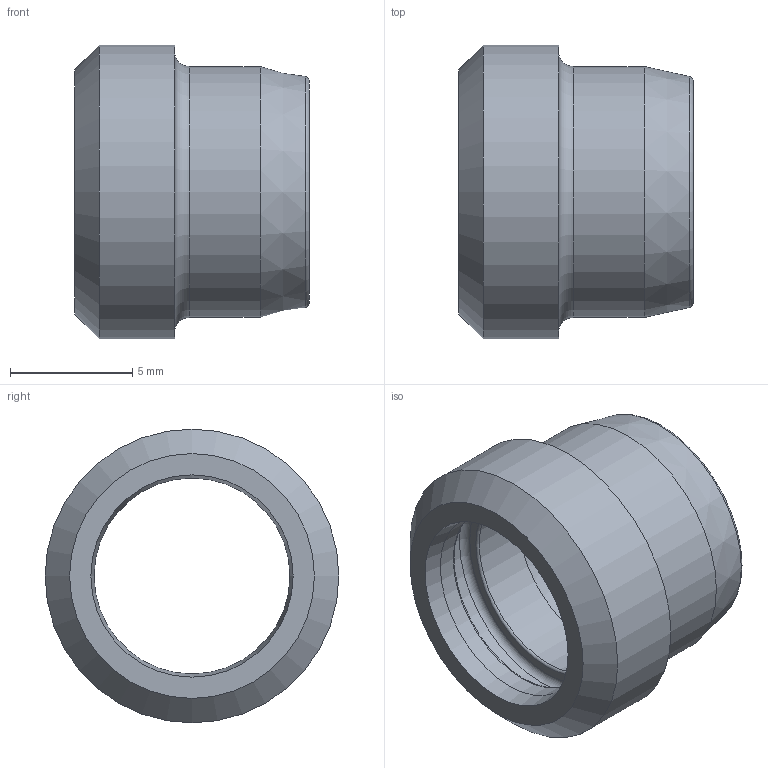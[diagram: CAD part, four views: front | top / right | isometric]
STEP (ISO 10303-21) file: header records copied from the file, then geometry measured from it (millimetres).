
FILE_DESCRIPTION(/* description */ ('Unknown','CAx-IF Rec.Pracs.---Representation and Presentation of Product Manufacturing Information (PMI)---4.0---2014-10-13','CAx-IF Rec.Pracs.---3D Tessellated Geometry---0.4---2014-09-14','2;1'),/* implementation_level */ '2;1');
FILE_NAME(/* name */ 'D08L_S',/* time_stamp */ '2020-11-19T08:37:10+01:00',/* author */ ('Unknown'),/* organization */ ('Unknown'),/* preprocessor_version */ 'ST-DEVELOPER v16.7',/* originating_system */ 'Solid Edge',/* authorisation */ 'Unknown');
FILE_SCHEMA (('AP242_MANAGED_MODEL_BASED_3D_ENGINEERING_MIM_LF { 1 0 10303 442 1 1 4 }'));
Length unit declared in the file: millimetre
Products named in the file (1): C-B408L71
Bounding box: 9.57 x 12 x 12 mm (x, y, z)
Volume: 357.2 mm3; surface area: 697.6 mm2
Topology: 1 solids, 1 shells, 23 faces, 47 edges, 30 vertices
Faces by surface type: torus 8, plane 6, cylinder 5, cone 4
Full cylindrical faces by diameter (mm): 8 x2, 9.5 x1, 10.25 x1, 12 x1
Entity records: 490 total; most frequent: DIRECTION 94, CARTESIAN_POINT 70, AXIS2_PLACEMENT_3D 47, ORIENTED_EDGE 46, EDGE_LOOP 46, FACE_BOUND 46, EDGE_CURVE 23, VERTEX_POINT 23
